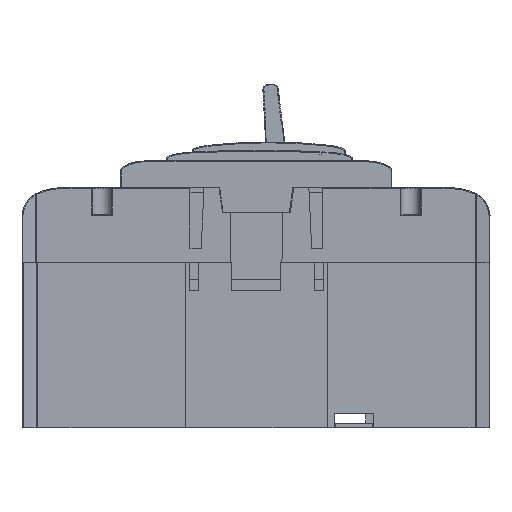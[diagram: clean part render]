
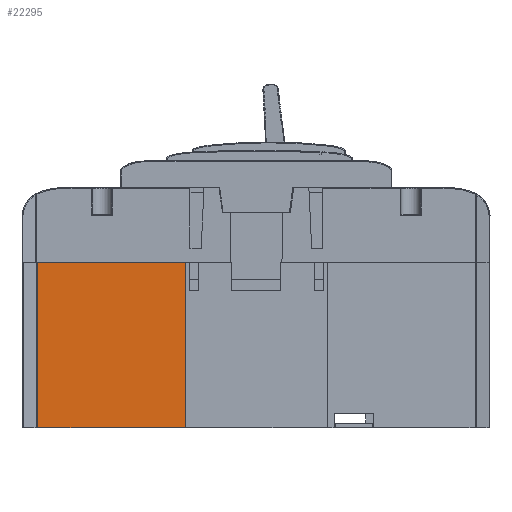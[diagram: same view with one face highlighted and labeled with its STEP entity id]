
A CAD part, left-side view. The second image highlights one B-rep face of the part: STEP entity #22295.
In plain terms, the highlighted planar face has unit normal (-1, 0, 0).
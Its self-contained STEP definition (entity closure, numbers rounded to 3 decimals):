
#576=DIRECTION('',(0.,1.,0.));
#577=VECTOR('',#576,52.25);
#578=CARTESIAN_POINT('',(98.924,25.05,-26.5));
#579=LINE('',#578,#577);
#6055=DIRECTION('',(0.,0.,-1.));
#6056=VECTOR('',#6055,58.5);
#6057=CARTESIAN_POINT('',(98.924,25.05,-26.5));
#6058=LINE('',#6057,#6056);
#6059=DIRECTION('',(0.,1.,0.));
#6060=VECTOR('',#6059,52.25);
#6061=CARTESIAN_POINT('',(98.924,25.05,-85.));
#6062=LINE('',#6061,#6060);
#6063=DIRECTION('',(0.,0.,-1.));
#6064=VECTOR('',#6063,58.5);
#6065=CARTESIAN_POINT('',(98.924,77.3,-26.5));
#6066=LINE('',#6065,#6064);
#10918=CARTESIAN_POINT('',(98.924,77.3,-85.));
#10919=VERTEX_POINT('',#10918);
#10920=CARTESIAN_POINT('',(98.924,25.05,-85.));
#10921=VERTEX_POINT('',#10920);
#12423=CARTESIAN_POINT('',(98.924,25.05,-26.5));
#12424=VERTEX_POINT('',#12423);
#12425=CARTESIAN_POINT('',(98.924,77.3,-26.5));
#12426=VERTEX_POINT('',#12425);
#22283=CARTESIAN_POINT('',(98.924,25.05,-26.5));
#22284=DIRECTION('',(-1.,0.,0.));
#22285=DIRECTION('',(0.,0.,-1.));
#22286=AXIS2_PLACEMENT_3D('',#22283,#22284,#22285);
#22287=PLANE('',#22286);
#22288=ORIENTED_EDGE('',*,*,#14524,.F.);
#22289=ORIENTED_EDGE('',*,*,#22276,.T.);
#22290=ORIENTED_EDGE('',*,*,#15650,.T.);
#22292=ORIENTED_EDGE('',*,*,#22291,.F.);
#22293=EDGE_LOOP('',(#22288,#22289,#22290,#22292));
#22294=FACE_OUTER_BOUND('',#22293,.F.);
#22295=ADVANCED_FACE('',(#22294),#22287,.T.);
#14524=EDGE_CURVE('',#12424,#12426,#579,.T.);
#15650=EDGE_CURVE('',#10921,#10919,#6062,.T.);
#22276=EDGE_CURVE('',#12424,#10921,#6058,.T.);
#22291=EDGE_CURVE('',#12426,#10919,#6066,.T.);
